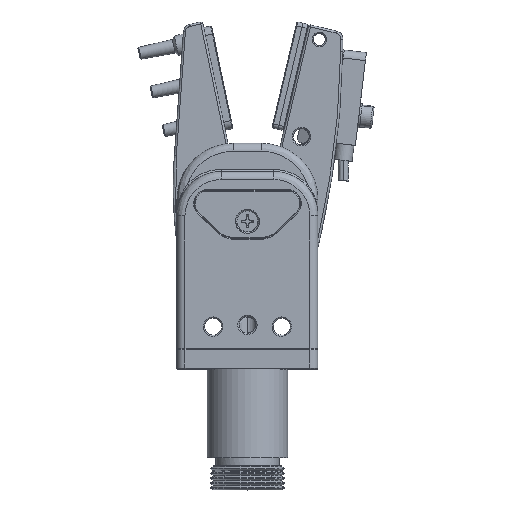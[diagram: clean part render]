
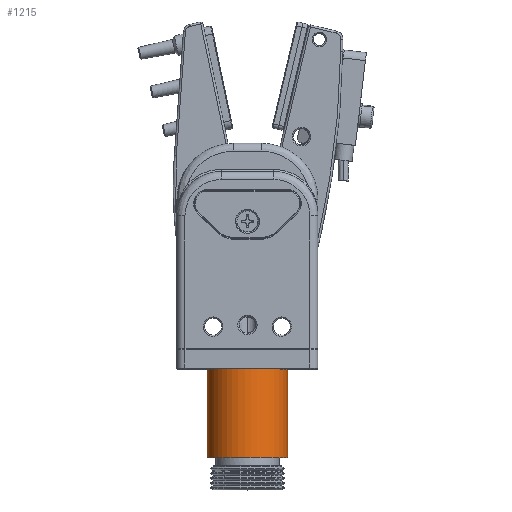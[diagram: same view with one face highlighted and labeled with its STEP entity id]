
A CAD part, top view. The second image highlights one B-rep face of the part: STEP entity #1215.
In plain terms, the highlighted free-form (B-spline) face has degree [1, 3] with [2, 4] control points.
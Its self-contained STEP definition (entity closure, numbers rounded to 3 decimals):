
#1156 = VECTOR ( 'NONE', #26189, 1000. ) ;
#1215 = ADVANCED_FACE ( 'NONE', ( #29773 ), #34336, .F. ) ;
#1893 = VERTEX_POINT ( 'NONE', #37145 ) ;
#2076 = CARTESIAN_POINT ( 'NONE',  ( -10., -52.5, -12.5 ) ) ;
#2621 = CARTESIAN_POINT ( 'NONE',  ( -10., -52.5, 7.5 ) ) ;
#3140 = EDGE_LOOP ( 'NONE', ( #31654, #26368, #24598, #22373 ) ) ;
#4036 = EDGE_CURVE ( 'NONE', #36278, #1893, #16561, .T. ) ;
#4125 = CARTESIAN_POINT ( 'NONE',  ( 10., -30.5, 7.5 ) ) ;
#4566 = CARTESIAN_POINT ( 'NONE',  ( 10., -30.5, -12.5 ) ) ;
#4938 = CARTESIAN_POINT ( 'NONE',  ( -10., -52.5, 7.5 ) ) ;
#5504 = CARTESIAN_POINT ( 'NONE',  ( 10., -52.5, 7.5 ) ) ;
#6728 = LINE ( 'NONE', #30251, #21134 ) ;
#7007 = CARTESIAN_POINT ( 'NONE',  ( 10., -30.5, -12.5 ) ) ;
#7828 = CARTESIAN_POINT ( 'NONE',  ( -10., -30.5, -12.5 ) ) ;
#9909 = CARTESIAN_POINT ( 'NONE',  ( -10., -30.5, -12.5 ) ) ;
#10743 = CARTESIAN_POINT ( 'NONE',  ( 10., -30.5, 7.5 ) ) ;
#12539 = EDGE_CURVE ( 'NONE', #27020, #18141, #22099, .T. ) ;
#16505 = EDGE_CURVE ( 'NONE', #18141, #1893, #6728, .T. ) ;
#16561 =( BOUNDED_CURVE ( )  B_SPLINE_CURVE ( 3, ( #25824, #5504, #2621, #19861 ),
 .UNSPECIFIED., .F., .F. ) 
 B_SPLINE_CURVE_WITH_KNOTS ( ( 4, 4 ),
 ( 0., 0.031 ),
 .UNSPECIFIED. ) 
 CURVE ( )  GEOMETRIC_REPRESENTATION_ITEM ( )  RATIONAL_B_SPLINE_CURVE ( ( 1., 0.333, 0.333, 1. ) ) 
 REPRESENTATION_ITEM ( '' )  );
#18141 = VERTEX_POINT ( 'NONE', #31722 ) ;
#19861 = CARTESIAN_POINT ( 'NONE',  ( -10., -52.5, -12.5 ) ) ;
#20359 = CARTESIAN_POINT ( 'NONE',  ( 10., -41.5, -12.5 ) ) ;
#21134 = VECTOR ( 'NONE', #24627, 1000. ) ;
#21348 = CARTESIAN_POINT ( 'NONE',  ( -10., -30.5, 7.5 ) ) ;
#22099 =( BOUNDED_CURVE ( )  B_SPLINE_CURVE ( 3, ( #7007, #4125, #21348, #9909 ),
 .UNSPECIFIED., .F., .F. ) 
 B_SPLINE_CURVE_WITH_KNOTS ( ( 4, 4 ),
 ( 0., 0.031 ),
 .UNSPECIFIED. ) 
 CURVE ( )  GEOMETRIC_REPRESENTATION_ITEM ( )  RATIONAL_B_SPLINE_CURVE ( ( 1., 0.333, 0.333, 1. ) ) 
 REPRESENTATION_ITEM ( '' )  );
#22212 = CARTESIAN_POINT ( 'NONE',  ( 10., -52.5, 7.5 ) ) ;
#22373 = ORIENTED_EDGE ( 'NONE', *, *, #25028, .T. ) ;
#23235 = LINE ( 'NONE', #20359, #1156 ) ;
#24598 = ORIENTED_EDGE ( 'NONE', *, *, #4036, .F. ) ;
#24627 = DIRECTION ( 'NONE',  ( 0., -1., 0. ) ) ;
#25028 = EDGE_CURVE ( 'NONE', #36278, #27020, #23235, .T. ) ;
#25133 = CARTESIAN_POINT ( 'NONE',  ( 10., -52.5, -12.5 ) ) ;
#25824 = CARTESIAN_POINT ( 'NONE',  ( 10., -52.5, -12.5 ) ) ;
#26189 = DIRECTION ( 'NONE',  ( 0., 1., 0. ) ) ;
#26368 = ORIENTED_EDGE ( 'NONE', *, *, #16505, .T. ) ;
#27020 = VERTEX_POINT ( 'NONE', #4566 ) ;
#27737 = CARTESIAN_POINT ( 'NONE',  ( 10., -52.5, -12.5 ) ) ;
#27993 = CARTESIAN_POINT ( 'NONE',  ( -10., -30.5, 7.5 ) ) ;
#28873 = CARTESIAN_POINT ( 'NONE',  ( 10., -30.5, -12.5 ) ) ;
#29773 = FACE_OUTER_BOUND ( 'NONE', #3140, .T. ) ;
#30251 = CARTESIAN_POINT ( 'NONE',  ( -10., -41.5, -12.5 ) ) ;
#31654 = ORIENTED_EDGE ( 'NONE', *, *, #12539, .T. ) ;
#31722 = CARTESIAN_POINT ( 'NONE',  ( -10., -30.5, -12.5 ) ) ;
#34336 =( BOUNDED_SURFACE ( )  B_SPLINE_SURFACE ( 1, 3, ( 
 ( #2076, #4938, #22212, #25133 ),
 ( #7828, #27993, #10743, #28873 ) ),
 .UNSPECIFIED., .F., .F., .F. ) 
 B_SPLINE_SURFACE_WITH_KNOTS ( ( 2, 2 ),
 ( 4, 4 ),
 ( 0., 1. ),
 ( 0., 1. ),
 .UNSPECIFIED. ) 
 GEOMETRIC_REPRESENTATION_ITEM ( )  RATIONAL_B_SPLINE_SURFACE ( (
 ( 1., 0.333, 0.333, 1.),
 ( 1., 0.333, 0.333, 1.) ) ) 
 REPRESENTATION_ITEM ( '' )  SURFACE ( )  );
#36278 = VERTEX_POINT ( 'NONE', #27737 ) ;
#37145 = CARTESIAN_POINT ( 'NONE',  ( -10., -52.5, -12.5 ) ) ;
